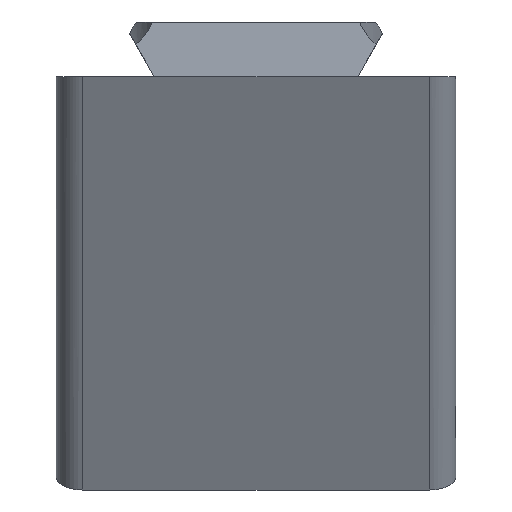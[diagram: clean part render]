
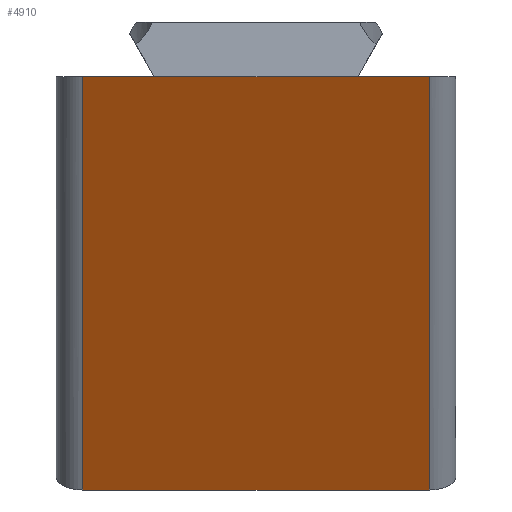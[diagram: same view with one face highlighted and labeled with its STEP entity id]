
A CAD part, left-side view. The second image highlights one B-rep face of the part: STEP entity #4910.
In plain terms, the highlighted planar face has unit normal (-0.875, 0, -0.485).
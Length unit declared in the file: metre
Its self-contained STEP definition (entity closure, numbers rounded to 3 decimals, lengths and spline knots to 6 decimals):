
#768=ORIENTED_EDGE('',*,*,#2024,.T.);
#769=ORIENTED_EDGE('',*,*,#2243,.T.);
#770=ORIENTED_EDGE('',*,*,#1977,.F.);
#771=ORIENTED_EDGE('',*,*,#2244,.T.);
#772=ORIENTED_EDGE('',*,*,#2042,.T.);
#773=ORIENTED_EDGE('',*,*,#2238,.T.);
#1977=EDGE_CURVE('',#2731,#2732,#3233,.T.);
#2024=EDGE_CURVE('',#2779,#2778,#3257,.T.);
#2042=EDGE_CURVE('',#2797,#2796,#3268,.T.);
#2238=EDGE_CURVE('',#2796,#2779,#3356,.T.);
#2243=EDGE_CURVE('',#2778,#2732,#3357,.T.);
#2244=EDGE_CURVE('',#2731,#2797,#3358,.F.);
#2731=VERTEX_POINT('',#6615);
#2732=VERTEX_POINT('',#6617);
#2778=VERTEX_POINT('',#6713);
#2779=VERTEX_POINT('',#6715);
#2796=VERTEX_POINT('',#6749);
#2797=VERTEX_POINT('',#6751);
#3233=LINE('',#6616,#3684);
#3257=LINE('',#6714,#3708);
#3268=LINE('',#6750,#3719);
#3356=LINE('',#7273,#3807);
#3357=LINE('',#7284,#3808);
#3358=LINE('',#7285,#3809);
#3684=VECTOR('',#5517,1.);
#3708=VECTOR('',#5595,1.);
#3719=VECTOR('',#5620,1.);
#3807=VECTOR('',#5816,1.);
#3808=VECTOR('',#5833,1.);
#3809=VECTOR('',#5834,1.);
#4174=EDGE_LOOP('',(#768,#769,#770,#771,#772,#773));
#4487=FACE_BOUND('',#4174,.T.);
#4774=PLANE('',#5278);
#4910=ADVANCED_FACE('',(#4487),#4774,.F.);
#5278=AXIS2_PLACEMENT_3D('',#7283,#5831,#5832);
#5517=DIRECTION('',(0.,1.,0.));
#5595=DIRECTION('',(0.,1.,0.));
#5620=DIRECTION('',(0.,1.,0.));
#5816=DIRECTION('',(0.,1.,0.));
#5831=DIRECTION('',(0.875,0.,0.485));
#5832=DIRECTION('',(0.485,0.,-0.875));
#5833=DIRECTION('',(0.485,0.,-0.875));
#5834=DIRECTION('',(0.485,0.,-0.875));
#6615=CARTESIAN_POINT('',(0.017204,-0.013,-0.031038));
#6616=CARTESIAN_POINT('',(0.017204,-0.015,-0.031038));
#6617=CARTESIAN_POINT('',(0.017204,0.013,-0.031038));
#6713=CARTESIAN_POINT('',(0.,0.013,0.));
#6714=CARTESIAN_POINT('',(0.,-0.015,0.));
#6715=CARTESIAN_POINT('',(0.,0.007695,0.));
#6749=CARTESIAN_POINT('',(0.,-0.007695,0.));
#6750=CARTESIAN_POINT('',(0.,-0.015,0.));
#6751=CARTESIAN_POINT('',(0.,-0.013,0.));
#7273=CARTESIAN_POINT('',(0.,0.,0.));
#7283=CARTESIAN_POINT('',(0.008602,-0.015,-0.015519));
#7284=CARTESIAN_POINT('',(0.008602,0.013,-0.015519));
#7285=CARTESIAN_POINT('',(0.,-0.013,0.));
